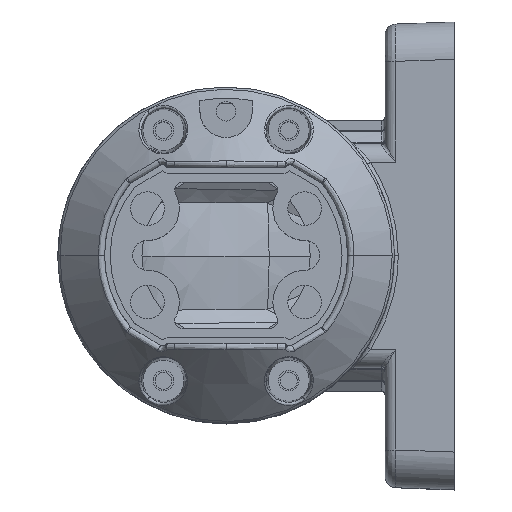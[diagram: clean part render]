
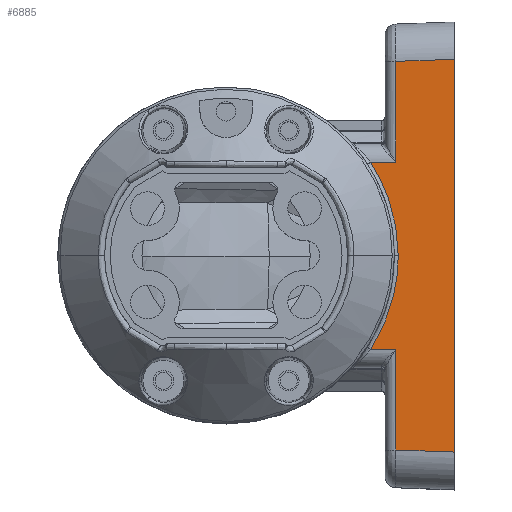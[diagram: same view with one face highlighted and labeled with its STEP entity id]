
A CAD part, top view. The second image highlights one B-rep face of the part: STEP entity #6885.
In plain terms, the highlighted planar face has unit normal (-0.035, 0, 0.999).
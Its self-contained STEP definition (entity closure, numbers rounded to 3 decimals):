
#174 = CARTESIAN_POINT ( 'NONE',  ( 45.395, 51.961, -226.045 ) ) ;
#706 = LINE ( 'NONE', #49472, #32111 ) ;
#969 = ORIENTED_EDGE ( 'NONE', *, *, #46470, .F. ) ;
#1775 = CARTESIAN_POINT ( 'NONE',  ( 46.035, 0., -226.023 ) ) ;
#2730 = DIRECTION ( 'NONE',  ( 0.035, 0., -0.999 ) ) ;
#3101 = ORIENTED_EDGE ( 'NONE', *, *, #30860, .F. ) ;
#3115 = CARTESIAN_POINT ( 'NONE',  ( 46.035, -5.286, -226.023 ) ) ;
#3876 = CARTESIAN_POINT ( 'NONE',  ( 46.035, 5.286, -226.023 ) ) ;
#4389 = DIRECTION ( 'NONE',  ( 0.999, 0.035, 0.035 ) ) ;
#6885 = ADVANCED_FACE ( 'NONE', ( #36345 ), #50476, .F. ) ;
#6958 = VERTEX_POINT ( 'NONE', #31547 ) ;
#7275 = VECTOR ( 'NONE', #22714, 1000. ) ;
#8609 = LINE ( 'NONE', #10907, #52218 ) ;
#9335 = EDGE_CURVE ( 'NONE', #25914, #25384, #36248, .T. ) ;
#10330 = CARTESIAN_POINT ( 'NONE',  ( 38.648, 25., -226.281 ) ) ;
#10907 = CARTESIAN_POINT ( 'NONE',  ( 45.395, 0., -226.045 ) ) ;
#11015 = VERTEX_POINT ( 'NONE', #1775 ) ;
#11239 = LINE ( 'NONE', #50642, #42686 ) ;
#11864 = EDGE_CURVE ( 'NONE', #6958, #38162, #29065, .T. ) ;
#12286 = VERTEX_POINT ( 'NONE', #21359 ) ;
#12399 = ORIENTED_EDGE ( 'NONE', *, *, #48936, .F. ) ;
#13395 = DIRECTION ( 'NONE',  ( 0.999, 0., 0.035 ) ) ;
#14191 = ORIENTED_EDGE ( 'NONE', *, *, #45174, .F. ) ;
#16154 = CARTESIAN_POINT ( 'NONE',  ( 43.756, 15.714, -226.102 ) ) ;
#17064 = EDGE_CURVE ( 'NONE', #32334, #37670, #706, .T. ) ;
#18514 = EDGE_CURVE ( 'NONE', #12286, #32334, #21086, .T. ) ;
#19347 = CARTESIAN_POINT ( 'NONE',  ( 38.648, -25., -226.281 ) ) ;
#19879 = EDGE_LOOP ( 'NONE', ( #37779, #12399, #3101, #33223, #51817, #969, #32935, #14191, #34087 ) ) ;
#20305 = CARTESIAN_POINT ( 'NONE',  ( 38.648, 25., -226.281 ) ) ;
#21086 = LINE ( 'NONE', #42843, #49921 ) ;
#21359 = CARTESIAN_POINT ( 'NONE',  ( 45.395, 25., -226.045 ) ) ;
#22714 = DIRECTION ( 'NONE',  ( -0.999, 0., -0.035 ) ) ;
#23493 = CARTESIAN_POINT ( 'NONE',  ( 41.521, -20.563, -226.18 ) ) ;
#25384 = VERTEX_POINT ( 'NONE', #40151 ) ;
#25890 = LINE ( 'NONE', #50115, #46371 ) ;
#25914 = VERTEX_POINT ( 'NONE', #38348 ) ;
#26640 = VECTOR ( 'NONE', #35791, 1000. ) ;
#27636 = CARTESIAN_POINT ( 'NONE',  ( 45.275, -10.573, -226.049 ) ) ;
#29065 = LINE ( 'NONE', #47248, #7275 ) ;
#30860 = EDGE_CURVE ( 'NONE', #11015, #33273, #51997, .T. ) ;
#31366 = DIRECTION ( 'NONE',  ( -0.999, 0., -0.035 ) ) ;
#31547 = CARTESIAN_POINT ( 'NONE',  ( 45.395, -25., -226.045 ) ) ;
#31588 = EDGE_CURVE ( 'NONE', #38162, #11015, #49500, .T. ) ;
#31759 = CARTESIAN_POINT ( 'NONE',  ( 46.035, 0., -226.023 ) ) ;
#32111 = VECTOR ( 'NONE', #4389, 1000. ) ;
#32334 = VERTEX_POINT ( 'NONE', #174 ) ;
#32553 = CARTESIAN_POINT ( 'NONE',  ( 46.035, 0., -226.023 ) ) ;
#32613 = CARTESIAN_POINT ( 'NONE',  ( 38.648, -25., -226.281 ) ) ;
#32935 = ORIENTED_EDGE ( 'NONE', *, *, #9335, .F. ) ;
#33219 = DIRECTION ( 'NONE',  ( 0., 1., 0. ) ) ;
#33223 = ORIENTED_EDGE ( 'NONE', *, *, #31588, .F. ) ;
#33273 = VERTEX_POINT ( 'NONE', #10330 ) ;
#34087 = ORIENTED_EDGE ( 'NONE', *, *, #17064, .F. ) ;
#35791 = DIRECTION ( 'NONE',  ( -0.999, 0.035, -0.035 ) ) ;
#36248 = LINE ( 'NONE', #39893, #26640 ) ;
#36345 = FACE_OUTER_BOUND ( 'NONE', #19879, .T. ) ;
#37509 = AXIS2_PLACEMENT_3D ( 'NONE', #51726, #2730, #31366 ) ;
#37670 = VERTEX_POINT ( 'NONE', #48447 ) ;
#37779 = ORIENTED_EDGE ( 'NONE', *, *, #18514, .F. ) ;
#38162 = VERTEX_POINT ( 'NONE', #32613 ) ;
#38348 = CARTESIAN_POINT ( 'NONE',  ( 61., -52.506, -225.5 ) ) ;
#38928 = DIRECTION ( 'NONE',  ( 0., 1., 0. ) ) ;
#39893 = CARTESIAN_POINT ( 'NONE',  ( 45.395, -51.961, -226.045 ) ) ;
#40151 = CARTESIAN_POINT ( 'NONE',  ( 45.395, -51.961, -226.045 ) ) ;
#40762 = CARTESIAN_POINT ( 'NONE',  ( 45.275, 10.573, -226.049 ) ) ;
#42436 = DIRECTION ( 'NONE',  ( 0., -1., 0. ) ) ;
#42686 = VECTOR ( 'NONE', #42436, 1000. ) ;
#42843 = CARTESIAN_POINT ( 'NONE',  ( 45.395, 0., -226.045 ) ) ;
#44857 = CARTESIAN_POINT ( 'NONE',  ( 41.521, 20.563, -226.18 ) ) ;
#45174 = EDGE_CURVE ( 'NONE', #37670, #25914, #11239, .T. ) ;
#46371 = VECTOR ( 'NONE', #13395, 1000. ) ;
#46470 = EDGE_CURVE ( 'NONE', #25384, #6958, #8609, .T. ) ;
#47248 = CARTESIAN_POINT ( 'NONE',  ( 61., -25., -225.5 ) ) ;
#48447 = CARTESIAN_POINT ( 'NONE',  ( 61., 52.506, -225.5 ) ) ;
#48936 = EDGE_CURVE ( 'NONE', #33273, #12286, #25890, .T. ) ;
#49472 = CARTESIAN_POINT ( 'NONE',  ( 47.271, 52.027, -225.979 ) ) ;
#49500 = B_SPLINE_CURVE_WITH_KNOTS ( 'NONE', 5,
 ( #19347, #23493, #52120, #27636, #3115, #31759 ),
 .UNSPECIFIED., .F., .F.,
 ( 6, 6 ),
 ( 0., 1. ),
 .UNSPECIFIED. ) ;
#49921 = VECTOR ( 'NONE', #38928, 1000. ) ;
#50115 = CARTESIAN_POINT ( 'NONE',  ( 61., 25., -225.5 ) ) ;
#50476 = PLANE ( 'NONE',  #37509 ) ;
#50642 = CARTESIAN_POINT ( 'NONE',  ( 61., 0., -225.5 ) ) ;
#51726 = CARTESIAN_POINT ( 'NONE',  ( 61., 0., -225.5 ) ) ;
#51817 = ORIENTED_EDGE ( 'NONE', *, *, #11864, .F. ) ;
#51997 = B_SPLINE_CURVE_WITH_KNOTS ( 'NONE', 5,
 ( #32553, #3876, #40762, #16154, #44857, #20305 ),
 .UNSPECIFIED., .F., .F.,
 ( 6, 6 ),
 ( 0., 1. ),
 .UNSPECIFIED. ) ;
#52120 = CARTESIAN_POINT ( 'NONE',  ( 43.756, -15.714, -226.102 ) ) ;
#52218 = VECTOR ( 'NONE', #33219, 1000. ) ;
